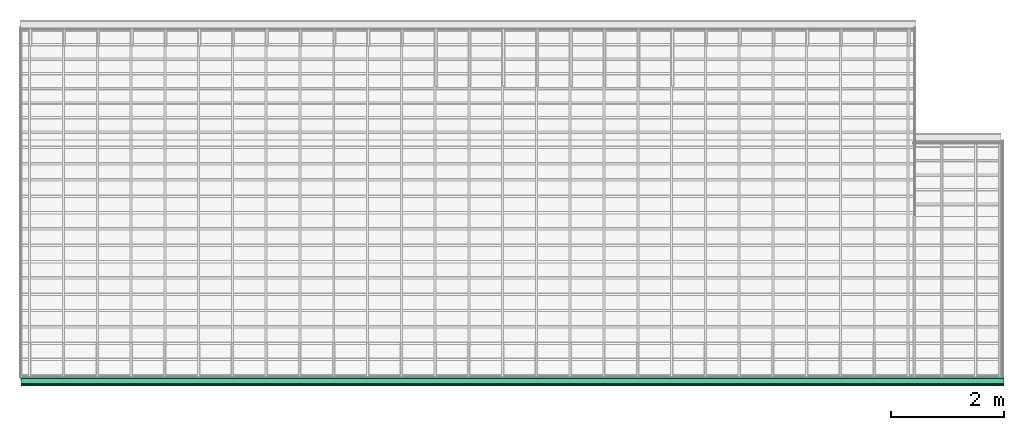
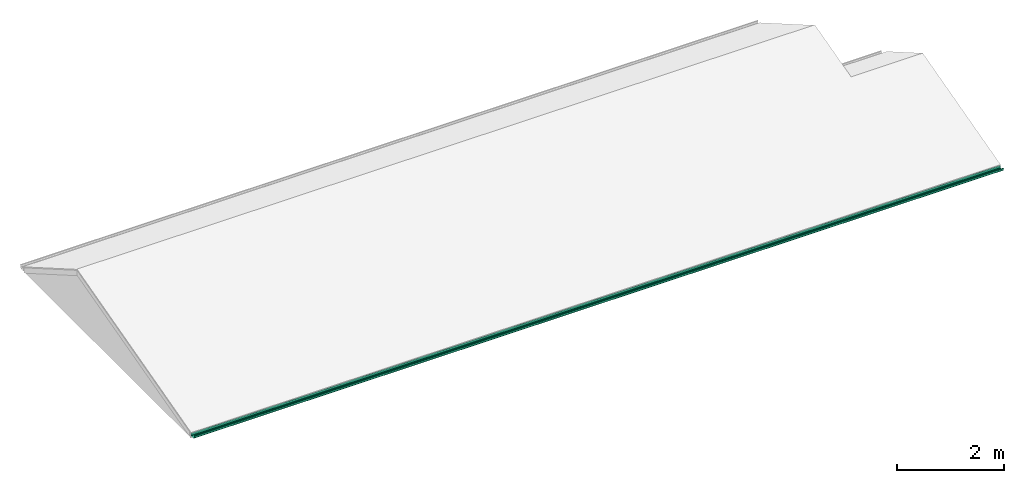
# One storey, part 11 of 12: 1 distribution element.
"""IFC2X3 building model written with IfcOpenShell, lengths in millimetres."""

from ifc_helpers import new_model, entity, si_unit, converted_unit, money_unit, direction, frame, origin_with_axes, place, context, subcontext, project, spatial, open_shell, surface_model, source, transform, mapped, material, type_object, element, save


model = new_model("IFC2X3")

# Units and contexts
model_context = context("Model", 3, precision=1e-05, world=origin_with_axes(), true_north=direction((0.0, 1.0)))
body_context = subcontext(model_context, "Body", "Model", "MODEL_VIEW")
ifc_project = project(units=[si_unit("LENGTHUNIT", "METRE", prefix="MILLI"), si_unit("AREAUNIT", "SQUARE_METRE"), si_unit("VOLUMEUNIT", "CUBIC_METRE"), converted_unit("PLANEANGLEUNIT", "DEGREE", entity("IfcPlaneAngleMeasure", 0.0174532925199), si_unit("PLANEANGLEUNIT", "RADIAN"), dimensions=[0, 0, 0, 0, 0, 0, 0]), si_unit("SOLIDANGLEUNIT", "STERADIAN"), money_unit("AUD"), si_unit("TIMEUNIT", "SECOND"), si_unit("MASSUNIT", "GRAM"), si_unit("THERMODYNAMICTEMPERATUREUNIT", "DEGREE_CELSIUS"), si_unit("LUMINOUSINTENSITYUNIT", "LUMEN")], contexts=[model_context])

# Site, building, storey
site_placement = place(None, origin_with_axes())
site = spatial("IfcSite", under=ifc_project, at=site_placement, Name="Lot 1. East Hills", CompositionType="ELEMENT")
building_placement = place(site_placement, origin_with_axes())
building = spatial("IfcBuilding", under=site, at=building_placement, Name="Proposed Units 7 & 8", CompositionType="ELEMENT")
storey_placement = place(building_placement, frame((0.0, 0.0, 8395.0), z_axis=(0.0, 0.0, 1.0), x_axis=(1.0, 0.0, 0.0)))
storey = spatial("IfcBuildingStorey", under=building, at=storey_placement, Name="Roof", CompositionType="ELEMENT", Elevation=8395.0)

# Distribution element
ifc_material = material(Name="50 %")
distribution_element_type = type_object("IfcDistributionElementType", Name="gutter")
shared_shape = source(origin_with_axes(), body_context, "Body", "SurfaceModel", [
    surface_model("IfcShellBasedSurfaceModel", [(6.04999174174, 0.0, 67.9116959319), (5.99999180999, 0.0, 67.9116959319), (5.99999180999, 17455.0922932, 67.9116959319), (6.04999174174, 17455.0922932, 67.9116959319), (6.90799057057, 0.0, 67.8596961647), (6.90799057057, 17455.0922932, 67.8596961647), (5.99999180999, 0.0, 67.9116959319), (5.99999180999, 17455.0922932, 67.9116959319), (7.79398936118, 0.0, 67.6606970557), (7.79398936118, 17455.0922932, 67.6606970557), (6.90799057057, 0.0, 67.8596961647), (6.90799057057, 17455.0922932, 67.8596961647), (8.63598821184, 0.0, 67.3176985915), (8.63598821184, 17455.0922932, 67.3176985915), (7.79398936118, 0.0, 67.6606970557), (7.79398936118, 17455.0922932, 67.6606970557), (9.40998715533, 0.0, 66.8407007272), (9.40998715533, 17455.0922932, 66.8407007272), (8.63598821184, 0.0, 67.3176985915), (8.63598821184, 17455.0922932, 67.3176985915), (10.0949862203, 0.0, 66.2427034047), (10.0949862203, 17455.0922932, 66.2427034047), (9.40998715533, 0.0, 66.8407007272), (9.40998715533, 17455.0922932, 66.8407007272), (10.6729854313, 0.0, 65.5407065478), (10.6729854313, 17455.0922932, 65.5407065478), (10.0949862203, 0.0, 66.2427034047), (10.0949862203, 17455.0922932, 66.2427034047), (11.1269848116, 0.0, 64.752710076), (11.1269848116, 17455.0922932, 64.752710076), (10.6729854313, 0.0, 65.5407065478), (10.6729854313, 17455.0922932, 65.5407065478), (11.4449843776, 0.0, 63.9017138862), (11.4449843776, 17455.0922932, 63.9017138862), (11.1269848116, 0.0, 64.752710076), (11.1269848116, 17455.0922932, 64.752710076), (11.4449843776, 0.0, 37.9998298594), (11.4449843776, 17455.0922932, 37.9998298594), (11.4449843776, 0.0, 63.9017138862), (11.4449843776, 17455.0922932, 63.9017138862), (12.0219835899, 0.0, 31.4008594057), (12.0219835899, 17455.0922932, 31.4008594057), (11.4449843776, 0.0, 37.9998298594), (11.4449843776, 17455.0922932, 37.9998298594), (13.736981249, 0.0, 25.002888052), (13.736981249, 17455.0922932, 25.002888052), (12.0219835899, 0.0, 31.4008594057), (12.0219835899, 17455.0922932, 31.4008594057), (16.5359774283, 0.0, 18.9999149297), (16.5359774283, 17455.0922932, 18.9999149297), (13.736981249, 0.0, 25.002888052), (13.736981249, 17455.0922932, 25.002888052), (20.3349722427, 0.0, 13.573939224), (20.3349722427, 17455.0922932, 13.573939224), (16.5359774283, 0.0, 18.9999149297), (16.5359774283, 17455.0922932, 18.9999149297), (25.018965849, 0.0, 8.88996019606), (25.018965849, 17455.0922932, 8.88996019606), (20.3349722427, 0.0, 13.573939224), (20.3349722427, 17455.0922932, 13.573939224), (30.4449584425, 0.0, 5.09097720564), (30.4449584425, 17455.0922932, 5.09097720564), (25.018965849, 0.0, 8.88996019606), (25.018965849, 17455.0922932, 8.88996019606), (36.4479502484, 0.0, 2.29198973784), (36.4479502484, 17455.0922932, 2.29198973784), (30.4449584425, 0.0, 5.09097720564), (30.4449584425, 17455.0922932, 5.09097720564), (42.8459415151, 0.0, 0.576997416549), (42.8459415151, 17455.0922932, 0.576997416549), (36.4479502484, 0.0, 2.29198973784), (36.4479502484, 17455.0922932, 2.29198973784), (49.4449325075, 0.0, 0.0), (49.4449325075, 17455.0922932, 0.0), (42.8459415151, 0.0, 0.576997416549), (42.8459415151, 17455.0922932, 0.576997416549), (129.8898227, 0.0, 0.0), (129.8898227, 17455.0922932, 0.0), (49.4449325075, 0.0, 0.0), (49.4449325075, 17455.0922932, 0.0), (131.10582104, 0.0, 0.105999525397), (131.10582104, 17455.0922932, 0.105999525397), (129.8898227, 0.0, 0.0), (129.8898227, 17455.0922932, 0.0), (132.283819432, 0.0, 0.421998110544), (132.283819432, 17455.0922932, 0.421998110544), (131.10582104, 0.0, 0.105999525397), (131.10582104, 17455.0922932, 0.105999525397), (133.389817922, 0.0, 0.937995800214), (133.389817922, 17455.0922932, 0.937995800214), (132.283819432, 0.0, 0.421998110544), (132.283819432, 17455.0922932, 0.421998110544), (134.389816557, 0.0, 1.63799266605), (134.389816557, 17455.0922932, 1.63799266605), (133.389817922, 0.0, 0.937995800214), (133.389817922, 17455.0922932, 0.937995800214), (135.251815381, 0.0, 2.49998880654), (135.251815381, 17455.0922932, 2.49998880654), (134.389816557, 0.0, 1.63799266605), (134.389816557, 17455.0922932, 1.63799266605), (135.951814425, 0.0, 3.49998432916), (135.951814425, 17455.0922932, 3.49998432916), (135.251815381, 0.0, 2.49998880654), (135.251815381, 17455.0922932, 2.49998880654), (136.467813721, 0.0, 4.60597937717), (136.467813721, 17455.0922932, 4.60597937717), (135.951814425, 0.0, 3.49998432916), (135.951814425, 17455.0922932, 3.49998432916), (136.78381329, 0.0, 5.78397410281), (136.78381329, 17455.0922932, 5.78397410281), (136.467813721, 0.0, 4.60597937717), (136.467813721, 17455.0922932, 4.60597937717), (136.889813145, 0.0, 6.99996865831), (136.889813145, 17455.0922932, 6.99996865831), (136.78381329, 0.0, 5.78397410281), (136.78381329, 17455.0922932, 5.78397410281), (136.892813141, 0.0, 53.0037626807), (136.892813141, 17455.0922932, 53.0037626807), (136.889813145, 0.0, 6.99996865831), (136.889813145, 17455.0922932, 6.99996865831), (136.867813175, 0.0, 53.0037626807), (136.867813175, 17455.0922932, 53.0037626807), (136.892813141, 0.0, 53.0037626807), (136.892813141, 17455.0922932, 53.0037626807), (136.520813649, 0.0, 53.0337625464), (136.520813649, 17455.0922932, 53.0337625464), (136.867813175, 0.0, 53.0037626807), (136.867813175, 17455.0922932, 53.0037626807), (136.184814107, 0.0, 53.1237621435), (136.184814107, 17455.0922932, 53.1237621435), (136.520813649, 0.0, 53.0337625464), (136.520813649, 17455.0922932, 53.0337625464), (135.868814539, 0.0, 53.2707614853), (135.868814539, 17455.0922932, 53.2707614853), (136.184814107, 0.0, 53.1237621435), (136.184814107, 17455.0922932, 53.1237621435), (135.583814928, 0.0, 53.4707605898), (135.583814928, 17455.0922932, 53.4707605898), (135.868814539, 0.0, 53.2707614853), (135.868814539, 17455.0922932, 53.2707614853), (135.336815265, 0.0, 53.7167594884), (135.336815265, 17455.0922932, 53.7167594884), (135.583814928, 0.0, 53.4707605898), (135.583814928, 17455.0922932, 53.4707605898), (135.137815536, 0.0, 54.0027582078), (135.137815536, 17455.0922932, 54.0027582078), (135.336815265, 0.0, 53.7167594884), (135.336815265, 17455.0922932, 53.7167594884), (134.989815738, 0.0, 54.3177567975), (134.989815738, 17455.0922932, 54.3177567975), (135.137815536, 0.0, 54.0027582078), (135.137815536, 17455.0922932, 54.0027582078), (134.899815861, 0.0, 54.6547552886), (134.899815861, 17455.0922932, 54.6547552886), (134.989815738, 0.0, 54.3177567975), (134.989815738, 17455.0922932, 54.3177567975), (134.869815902, 0.0, 55.0017537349), (134.869815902, 17455.0922932, 55.0017537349), (134.899815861, 0.0, 54.6547552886), (134.899815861, 17455.0922932, 54.6547552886), (134.899815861, 0.0, 55.3487521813), (134.899815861, 17455.0922932, 55.3487521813), (134.869815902, 0.0, 55.0017537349), (134.869815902, 17455.0922932, 55.0017537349), (134.989815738, 0.0, 55.6847506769), (134.989815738, 17455.0922932, 55.6847506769), (134.899815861, 0.0, 55.3487521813), (134.899815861, 17455.0922932, 55.3487521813), (135.137815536, 0.0, 56.000749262), (135.137815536, 17455.0922932, 56.000749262), (134.989815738, 0.0, 55.6847506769), (134.989815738, 17455.0922932, 55.6847506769), (135.336815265, 0.0, 56.285747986), (135.336815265, 17455.0922932, 56.285747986), (135.137815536, 0.0, 56.000749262), (135.137815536, 17455.0922932, 56.000749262), (135.583814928, 0.0, 56.5327468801), (135.583814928, 17455.0922932, 56.5327468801), (135.336815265, 0.0, 56.285747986), (135.336815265, 17455.0922932, 56.285747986), (135.868814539, 0.0, 56.7317459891), (135.868814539, 17455.0922932, 56.7317459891), (135.583814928, 0.0, 56.5327468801), (135.583814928, 17455.0922932, 56.5327468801), (136.184814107, 0.0, 56.8797453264), (136.184814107, 17455.0922932, 56.8797453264), (135.868814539, 0.0, 56.7317459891), (135.868814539, 17455.0922932, 56.7317459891), (136.520813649, 0.0, 56.9697449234), (136.520813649, 17455.0922932, 56.9697449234), (136.184814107, 0.0, 56.8797453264), (136.184814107, 17455.0922932, 56.8797453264), (136.867813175, 0.0, 56.9997447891), (136.867813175, 17455.0922932, 56.9997447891), (136.520813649, 0.0, 56.9697449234), (136.520813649, 17455.0922932, 56.9697449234), (136.889813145, 0.0, 56.9997447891), (136.889813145, 17455.0922932, 56.9997447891), (136.867813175, 0.0, 56.9997447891), (136.867813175, 17455.0922932, 56.9997447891), (136.893813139, 0.0, 58.805736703), (136.893813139, 17455.0922932, 58.805736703), (136.889813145, 0.0, 56.9997447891), (136.889813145, 17455.0922932, 56.9997447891), (136.810813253, 0.0, 58.8047367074), (136.810813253, 17455.0922932, 58.8047367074), (136.893813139, 0.0, 58.805736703), (136.893813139, 17455.0922932, 58.805736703), (136.463813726, 0.0, 58.8347365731), (136.463813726, 17455.0922932, 58.8347365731), (136.810813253, 0.0, 58.8047367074), (136.810813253, 17455.0922932, 58.8047367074), (136.127814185, 0.0, 58.9247361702), (136.127814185, 17455.0922932, 58.9247361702), (136.463813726, 0.0, 58.8347365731), (136.463813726, 17455.0922932, 58.8347365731), (135.812814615, 0.0, 59.071735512), (135.812814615, 17455.0922932, 59.071735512), (136.127814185, 0.0, 58.9247361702), (136.127814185, 17455.0922932, 58.9247361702), (135.528815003, 0.0, 59.270734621), (135.528815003, 17455.0922932, 59.270734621), (135.812814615, 0.0, 59.071735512), (135.812814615, 17455.0922932, 59.071735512), (135.282815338, 0.0, 59.5167335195), (135.282815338, 17455.0922932, 59.5167335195), (135.528815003, 0.0, 59.270734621), (135.528815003, 17455.0922932, 59.270734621), (135.082815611, 0.0, 59.8017322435), (135.082815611, 17455.0922932, 59.8017322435), (135.282815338, 0.0, 59.5167335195), (135.282815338, 17455.0922932, 59.5167335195), (134.935815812, 0.0, 60.1167308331), (134.935815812, 17455.0922932, 60.1167308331), (135.082815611, 0.0, 59.8017322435), (135.082815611, 17455.0922932, 59.8017322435), (134.845815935, 0.0, 60.4527293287), (134.845815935, 17455.0922932, 60.4527293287), (134.935815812, 0.0, 60.1167308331), (134.935815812, 17455.0922932, 60.1167308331), (134.815815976, 0.0, 60.7987277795), (134.815815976, 17455.0922932, 60.7987277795), (134.845815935, 0.0, 60.4527293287), (134.845815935, 17455.0922932, 60.4527293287), (134.845815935, 0.0, 61.1447262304), (134.845815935, 17455.0922932, 61.1447262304), (134.815815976, 0.0, 60.7987277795), (134.815815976, 17455.0922932, 60.7987277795), (134.935815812, 0.0, 61.480724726), (134.935815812, 17455.0922932, 61.480724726), (134.845815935, 0.0, 61.1447262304), (134.845815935, 17455.0922932, 61.1447262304), (135.082815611, 0.0, 61.7957233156), (135.082815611, 17455.0922932, 61.7957233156), (134.935815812, 0.0, 61.480724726), (134.935815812, 17455.0922932, 61.480724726), (135.282815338, 0.0, 62.0807220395), (135.282815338, 17455.0922932, 62.0807220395), (135.082815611, 0.0, 61.7957233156), (135.082815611, 17455.0922932, 61.7957233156), (135.528815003, 0.0, 62.3267209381), (135.528815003, 17455.0922932, 62.3267209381), (135.282815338, 0.0, 62.0807220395), (135.282815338, 17455.0922932, 62.0807220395), (135.812814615, 0.0, 62.5257200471), (135.812814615, 17455.0922932, 62.5257200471), (135.528815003, 0.0, 62.3267209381), (135.528815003, 17455.0922932, 62.3267209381), (136.127814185, 0.0, 62.6727193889), (136.127814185, 17455.0922932, 62.6727193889), (135.812814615, 0.0, 62.5257200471), (135.812814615, 17455.0922932, 62.5257200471), (136.463813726, 0.0, 62.762718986), (136.463813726, 17455.0922932, 62.762718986), (136.127814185, 0.0, 62.6727193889), (136.127814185, 17455.0922932, 62.6727193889), (136.810813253, 0.0, 62.7927188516), (136.810813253, 17455.0922932, 62.7927188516), (136.463813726, 0.0, 62.762718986), (136.463813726, 17455.0922932, 62.762718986), (136.892813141, 0.0, 62.7917188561), (136.892813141, 17455.0922932, 62.7917188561), (136.810813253, 0.0, 62.7927188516), (136.810813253, 17455.0922932, 62.7927188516), (136.894813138, 0.0, 65.9997044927), (136.894813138, 17455.0922932, 65.9997044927), (136.892813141, 0.0, 62.7917188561), (136.892813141, 17455.0922932, 62.7917188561)], [open_shell([[[0, 1, 2, 3]], [[1, 4, 5, 2]], [[6, 0, 3, 7]], [[4, 8, 9, 5]], [[10, 6, 7, 11]], [[8, 12, 13, 9]], [[14, 10, 11, 15]], [[12, 16, 17, 13]], [[18, 14, 15, 19]], [[16, 20, 21, 17]], [[22, 18, 19, 23]], [[20, 24, 25, 21]], [[26, 22, 23, 27]], [[24, 28, 29, 25]], [[30, 26, 27, 31]], [[28, 32, 33, 29]], [[34, 30, 31, 35]], [[32, 36, 37, 33]], [[38, 34, 35, 39]], [[36, 40, 41, 37]], [[42, 38, 39, 43]], [[40, 44, 45, 41]], [[46, 42, 43, 47]], [[44, 48, 49, 45]], [[50, 46, 47, 51]], [[48, 52, 53, 49]], [[54, 50, 51, 55]], [[52, 56, 57, 53]], [[58, 54, 55, 59]], [[56, 60, 61, 57]], [[62, 58, 59, 63]], [[60, 64, 65, 61]], [[66, 62, 63, 67]], [[64, 68, 69, 65]], [[70, 66, 67, 71]], [[68, 72, 73, 69]], [[74, 70, 71, 75]], [[72, 76, 77, 73]], [[78, 74, 75, 79]], [[76, 80, 81, 77]], [[82, 78, 79, 83]], [[80, 84, 85, 81]], [[86, 82, 83, 87]], [[84, 88, 89, 85]], [[90, 86, 87, 91]], [[88, 92, 93, 89]], [[94, 90, 91, 95]], [[92, 96, 97, 93]], [[98, 94, 95, 99]], [[96, 100, 101, 97]], [[102, 98, 99, 103]], [[100, 104, 105, 101]], [[106, 102, 103, 107]], [[104, 108, 109, 105]], [[110, 106, 107, 111]], [[108, 112, 113, 109]], [[114, 110, 111, 115]], [[112, 116, 117, 113]], [[118, 114, 115, 119]], [[116, 120, 121, 117]], [[122, 118, 119, 123]], [[120, 124, 125, 121]], [[126, 122, 123, 127]], [[124, 128, 129, 125]], [[130, 126, 127, 131]], [[128, 132, 133, 129]], [[134, 130, 131, 135]], [[132, 136, 137, 133]], [[138, 134, 135, 139]], [[136, 140, 141, 137]], [[142, 138, 139, 143]], [[140, 144, 145, 141]], [[146, 142, 143, 147]], [[144, 148, 149, 145]], [[150, 146, 147, 151]], [[148, 152, 153, 149]], [[154, 150, 151, 155]], [[152, 156, 157, 153]], [[158, 154, 155, 159]], [[156, 160, 161, 157]], [[162, 158, 159, 163]], [[160, 164, 165, 161]], [[166, 162, 163, 167]], [[164, 168, 169, 165]], [[170, 166, 167, 171]], [[168, 172, 173, 169]], [[174, 170, 171, 175]], [[172, 176, 177, 173]], [[178, 174, 175, 179]], [[176, 180, 181, 177]], [[182, 178, 179, 183]], [[180, 184, 185, 181]], [[186, 182, 183, 187]], [[184, 188, 189, 185]], [[190, 186, 187, 191]], [[188, 192, 193, 189]], [[194, 190, 191, 195]], [[192, 196, 197, 193]], [[198, 194, 195, 199]], [[196, 200, 201, 197]], [[202, 198, 199, 203]], [[200, 204, 205, 201]], [[206, 202, 203, 207]], [[204, 208, 209, 205]], [[210, 206, 207, 211]], [[208, 212, 213, 209]], [[214, 210, 211, 215]], [[212, 216, 217, 213]], [[218, 214, 215, 219]], [[216, 220, 221, 217]], [[222, 218, 219, 223]], [[220, 224, 225, 221]], [[226, 222, 223, 227]], [[224, 228, 229, 225]], [[230, 226, 227, 231]], [[228, 232, 233, 229]], [[234, 230, 231, 235]], [[232, 236, 237, 233]], [[238, 234, 235, 239]], [[236, 240, 241, 237]], [[242, 238, 239, 243]], [[240, 244, 245, 241]], [[246, 242, 243, 247]], [[244, 248, 249, 245]], [[250, 246, 247, 251]], [[248, 252, 253, 249]], [[254, 250, 251, 255]], [[252, 256, 257, 253]], [[258, 254, 255, 259]], [[256, 260, 261, 257]], [[262, 258, 259, 263]], [[260, 264, 265, 261]], [[266, 262, 263, 267]], [[264, 268, 269, 265]], [[270, 266, 267, 271]], [[268, 272, 273, 269]], [[274, 270, 271, 275]], [[272, 276, 277, 273]], [[278, 274, 275, 279]], [[276, 280, 281, 277]], [[282, 278, 279, 283]], [[280, 284, 285, 281]], [[286, 282, 283, 287]], [[284, 286, 287, 285]]])]),
    surface_model("IfcShellBasedSurfaceModel", [(11.99998362, 0.0, 73.9116690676), (11.9089837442, 0.0, 74.9536644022), (11.9089837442, 17455.0922932, 74.9536644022), (11.99998362, 17455.0922932, 73.9116690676), (11.6379841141, 0.0, 75.96365988), (11.6379841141, 17455.0922932, 75.96365988), (11.9089837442, 0.0, 74.9536644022), (11.9089837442, 17455.0922932, 74.9536644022), (11.1959847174, 0.0, 76.9116556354), (11.1959847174, 17455.0922932, 76.9116556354), (11.6379841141, 0.0, 75.96365988), (11.6379841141, 17455.0922932, 75.96365988), (10.5959855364, 0.0, 77.7676518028), (10.5959855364, 17455.0922932, 77.7676518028), (11.1959847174, 0.0, 76.9116556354), (11.1959847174, 17455.0922932, 76.9116556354), (9.85698654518, 0.0, 78.5076484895), (9.85698654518, 17455.0922932, 78.5076484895), (10.5959855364, 0.0, 77.7676518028), (10.5959855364, 17455.0922932, 77.7676518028), (8.99998771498, 0.0, 79.1076458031), (8.99998771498, 17455.0922932, 79.1076458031), (9.85698654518, 0.0, 78.5076484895), (9.85698654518, 17455.0922932, 78.5076484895), (8.05198900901, 0.0, 79.5496438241), (8.05198900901, 17455.0922932, 79.5496438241), (8.99998771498, 0.0, 79.1076458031), (8.99998771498, 17455.0922932, 79.1076458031), (7.04199038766, 0.0, 79.8196426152), (7.04199038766, 17455.0922932, 79.8196426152), (8.05198900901, 0.0, 79.5496438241), (8.05198900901, 17455.0922932, 79.5496438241), (5.99999180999, 0.0, 79.9116422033), (5.99999180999, 17455.0922932, 79.9116422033), (7.04199038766, 0.0, 79.8196426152), (7.04199038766, 17455.0922932, 79.8196426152), (4.95799323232, 0.0, 79.8196426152), (4.95799323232, 17455.0922932, 79.8196426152), (5.99999180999, 0.0, 79.9116422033), (5.99999180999, 17455.0922932, 79.9116422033), (3.94799461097, 0.0, 79.5496438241), (3.94799461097, 17455.0922932, 79.5496438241), (4.95799323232, 0.0, 79.8196426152), (4.95799323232, 17455.0922932, 79.8196426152), (2.99999590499, 0.0, 79.1076458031), (2.99999590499, 17455.0922932, 79.1076458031), (3.94799461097, 0.0, 79.5496438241), (3.94799461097, 17455.0922932, 79.5496438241), (2.1429970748, 0.0, 78.5076484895), (2.1429970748, 17455.0922932, 78.5076484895), (2.99999590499, 0.0, 79.1076458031), (2.99999590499, 17455.0922932, 79.1076458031), (1.40399808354, 0.0, 77.7676518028), (1.40399808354, 17455.0922932, 77.7676518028), (2.1429970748, 0.0, 78.5076484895), (2.1429970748, 17455.0922932, 78.5076484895), (0.803998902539, 0.0, 76.9116556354), (0.803998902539, 17455.0922932, 76.9116556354), (1.40399808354, 0.0, 77.7676518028), (1.40399808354, 17455.0922932, 77.7676518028), (0.361999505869, 0.0, 75.96365988), (0.361999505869, 17455.0922932, 75.96365988), (0.803998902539, 0.0, 76.9116556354), (0.803998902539, 17455.0922932, 76.9116556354), (0.0909998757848, 0.0, 74.9536644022), (0.0909998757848, 17455.0922932, 74.9536644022), (0.361999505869, 0.0, 75.96365988), (0.361999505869, 17455.0922932, 75.96365988), (0.0, 0.0, 73.9116690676), (0.0, 17455.0922932, 73.9116690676), (0.0909998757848, 0.0, 74.9536644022), (0.0909998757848, 17455.0922932, 74.9536644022), (0.0909998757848, 0.0, 72.869673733), (0.0909998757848, 17455.0922932, 72.869673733), (0.0, 0.0, 73.9116690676), (0.0, 17455.0922932, 73.9116690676), (0.361999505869, 0.0, 71.8596782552), (0.361999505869, 17455.0922932, 71.8596782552), (0.0909998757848, 0.0, 72.869673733), (0.0909998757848, 17455.0922932, 72.869673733), (0.803998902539, 0.0, 70.9116824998), (0.803998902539, 17455.0922932, 70.9116824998), (0.361999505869, 0.0, 71.8596782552), (0.361999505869, 17455.0922932, 71.8596782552), (1.40399808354, 0.0, 70.0546863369), (1.40399808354, 17455.0922932, 70.0546863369), (0.803998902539, 0.0, 70.9116824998), (0.803998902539, 17455.0922932, 70.9116824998), (2.1429970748, 0.0, 69.3146896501), (2.1429970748, 17455.0922932, 69.3146896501), (1.40399808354, 0.0, 70.0546863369), (1.40399808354, 17455.0922932, 70.0546863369), (2.99999590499, 0.0, 68.7146923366), (2.99999590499, 17455.0922932, 68.7146923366), (2.1429970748, 0.0, 69.3146896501), (2.1429970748, 17455.0922932, 69.3146896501), (3.94799461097, 0.0, 68.2726943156), (3.94799461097, 17455.0922932, 68.2726943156), (2.99999590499, 0.0, 68.7146923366), (2.99999590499, 17455.0922932, 68.7146923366), (4.95799323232, 0.0, 68.0026955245), (4.95799323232, 17455.0922932, 68.0026955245), (3.94799461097, 0.0, 68.2726943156), (3.94799461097, 17455.0922932, 68.2726943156), (5.99999180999, 0.0, 67.9116959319), (5.99999180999, 17455.0922932, 67.9116959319), (4.95799323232, 0.0, 68.0026955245), (4.95799323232, 17455.0922932, 68.0026955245)], [open_shell([[[0, 1, 2, 3]], [[1, 4, 5, 2]], [[6, 0, 3, 7]], [[4, 8, 9, 5]], [[10, 6, 7, 11]], [[8, 12, 13, 9]], [[14, 10, 11, 15]], [[12, 16, 17, 13]], [[18, 14, 15, 19]], [[16, 20, 21, 17]], [[22, 18, 19, 23]], [[20, 24, 25, 21]], [[26, 22, 23, 27]], [[24, 28, 29, 25]], [[30, 26, 27, 31]], [[28, 32, 33, 29]], [[34, 30, 31, 35]], [[32, 36, 37, 33]], [[38, 34, 35, 39]], [[36, 40, 41, 37]], [[42, 38, 39, 43]], [[40, 44, 45, 41]], [[46, 42, 43, 47]], [[44, 48, 49, 45]], [[50, 46, 47, 51]], [[48, 52, 53, 49]], [[54, 50, 51, 55]], [[52, 56, 57, 53]], [[58, 54, 55, 59]], [[56, 60, 61, 57]], [[62, 58, 59, 63]], [[60, 64, 65, 61]], [[66, 62, 63, 67]], [[64, 68, 69, 65]], [[70, 66, 67, 71]], [[68, 72, 73, 69]], [[74, 70, 71, 75]], [[72, 76, 77, 73]], [[78, 74, 75, 79]], [[76, 80, 81, 77]], [[82, 78, 79, 83]], [[80, 84, 85, 81]], [[86, 82, 83, 87]], [[84, 88, 89, 85]], [[90, 86, 87, 91]], [[88, 92, 93, 89]], [[94, 90, 91, 95]], [[92, 96, 97, 93]], [[98, 94, 95, 99]], [[96, 100, 101, 97]], [[102, 98, 99, 103]], [[100, 104, 105, 101]], [[106, 102, 103, 107]], [[104, 106, 107, 105]]])]),
])
distribution_element_placement = place(storey_placement, frame((17441.7613544, -764.74404859, -146.783420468), z_axis=(0.0, 0.0, 1.0), x_axis=(0.0, 1.0, 0.0)))
element("IfcDistributionElement", 1, at=distribution_element_placement, inside=storey, type_object=distribution_element_type, material=ifc_material, Name="CEL-MOD-G20 - gutter - object -", context=body_context, shape_type="MappedRepresentation", body=[
    mapped(shared_shape, transform((0.0, 0.0, 0.0))),
])

save(model, "model.ifc")
